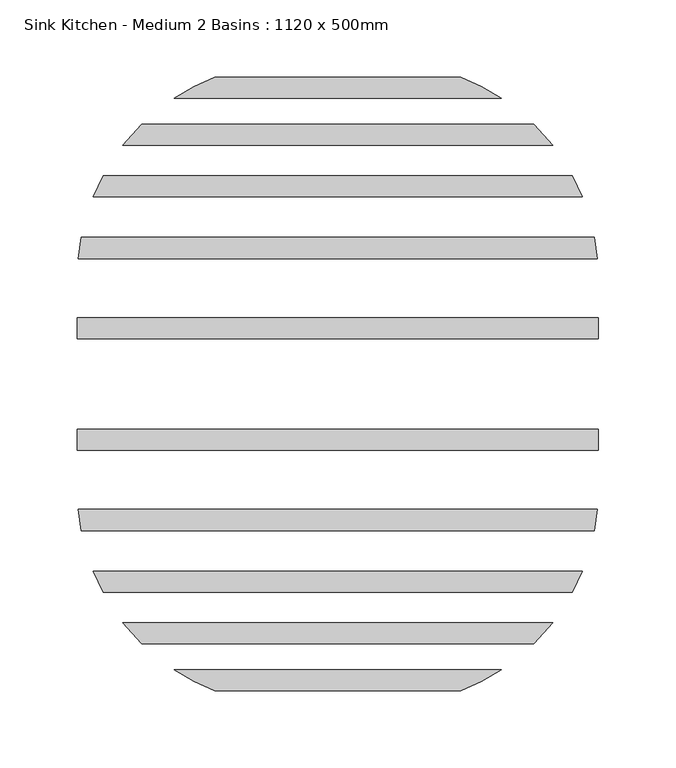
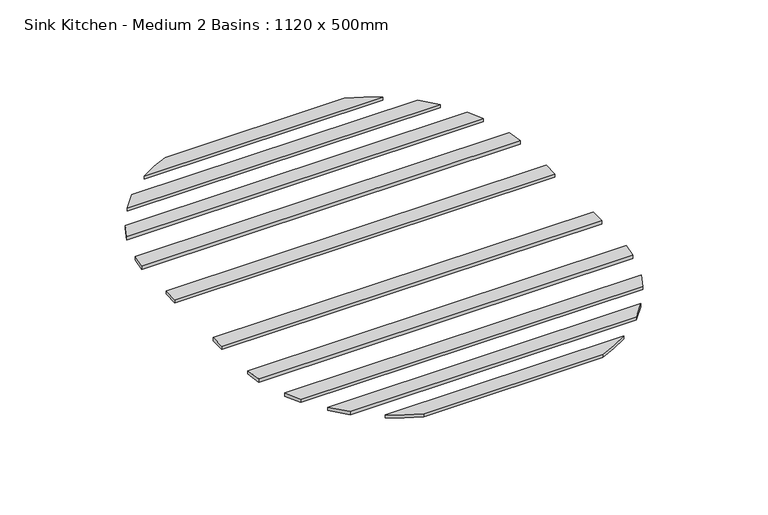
"""IFC4 building model written with IfcOpenShell, lengths in millimetres: flow terminal geometry, Sink Kitchen - Medium 2 Basins : 1120 x 500mm."""

import ifcopenshell
import ifcopenshell.guid

model = None  # the IFC model being written
_history = None  # IfcOwnerHistory: only IFC2X3 demands one
_inside = {}  # id of a spatial element -> (the spatial element, [elements in it])
_under = {}  # id of a project, library or spatial element -> (it, [spatial elements below it])
_declared = {}  # id of a project -> (the project, [libraries it declares])
_typed = {}  # id of a type object -> (the type object, [elements of that type])
_made_of = {}  # id of a material, layer set ... -> (it, [elements and type objects made of it])


def new_model(schema):
    """Start an empty IFC model of exactly this schema.

    Asked for "IFC4X3", IfcOpenShell would pick the latest addendum, in which some entities
    have other attributes; the version numbers below select the first issue.
    IFC2X3 requires an IfcOwnerHistory on every rooted entity: one is made here for all.
    """
    global model, _history
    if schema == "IFC4X3":
        model = ifcopenshell.file(schema_version=(4, 3, 0, 0))
    else:
        model = ifcopenshell.file(schema=schema)
    _inside.clear()
    _under.clear()
    _declared.clear()
    _typed.clear()
    _made_of.clear()
    _history = None
    if model.schema == "IFC2X3":
        org = make("IfcOrganization", Name="unknown")
        user = make(
            "IfcPersonAndOrganization",
            ThePerson=make("IfcPerson", FamilyName="unknown"),
            TheOrganization=org,
        )
        app = make(
            "IfcApplication",
            ApplicationDeveloper=org,
            Version="unknown",
            ApplicationFullName="unknown",
            ApplicationIdentifier="unknown",
        )
        _history = make(
            "IfcOwnerHistory",
            OwningUser=user,
            OwningApplication=app,
            ChangeAction="ADDED",
            CreationDate=0,
        )
    return model


def make(cls, **values):
    """One entity of the class cls with the attributes given. An attribute that is None is left unset."""
    return model.create_entity(
        cls, **{name: value for name, value in values.items() if value is not None}
    )


def rooted(cls, **values):
    """An entity with a GlobalId (a new one), such as an element, a storey or a relation."""
    return make(cls, GlobalId=ifcopenshell.guid.new(), OwnerHistory=_history, **values)


def si_unit(unit_type, name, prefix=None):
    """IfcSIUnit, for example si_unit("LENGTHUNIT", "METRE", prefix="MILLI")."""
    return make("IfcSIUnit", UnitType=unit_type, Prefix=prefix, Name=name)


def assignment(units):
    """IfcUnitAssignment: the units of a project."""
    return None if units is None else make("IfcUnitAssignment", Units=units)


def point(xyz):
    """IfcCartesianPoint."""
    return None if xyz is None else make("IfcCartesianPoint", Coordinates=xyz)


def direction(xyz):
    """IfcDirection."""
    return None if xyz is None else make("IfcDirection", DirectionRatios=xyz)


def frame(location, z_axis=None, x_axis=None):
    """IfcAxis2Placement3D, a coordinate frame: its origin and axes. An axis left out is left unset."""
    return make(
        "IfcAxis2Placement3D",
        Location=point(location),
        Axis=direction(z_axis),
        RefDirection=direction(x_axis),
    )


def frame_2d(location, x_axis=None):
    """IfcAxis2Placement2D, a coordinate frame in the plane: its origin and x axis."""
    return make(
        "IfcAxis2Placement2D", Location=point(location), RefDirection=direction(x_axis)
    )


def origin():
    """The frame at (0, 0, 0) with its axes left unset."""
    return frame((0.0, 0.0, 0.0))


def place(relative_to, where):
    """IfcLocalPlacement: puts the frame where relative to a parent placement (None: the world)."""
    return make(
        "IfcLocalPlacement", PlacementRelTo=relative_to, RelativePlacement=where
    )


def context(
    kind, dimensions, precision=None, world=None, true_north=None, identifier=None
):
    """IfcGeometricRepresentationContext, for example the 3D "Model" context."""
    return make(
        "IfcGeometricRepresentationContext",
        ContextIdentifier=identifier,
        ContextType=kind,
        CoordinateSpaceDimension=dimensions,
        Precision=precision,
        WorldCoordinateSystem=world,
        TrueNorth=true_north,
    )


def project(units=None, contexts=None):
    """IfcProject with its units and contexts."""
    return rooted(
        "IfcProject",
        Name="project",
        RepresentationContexts=contexts,
        UnitsInContext=assignment(units),
    )


def spatial(cls, under=None, at=None, **own):
    """A site, building, storey or space (cls), placed at a placement, below another one or the project."""
    s = rooted(cls, ObjectPlacement=at, **own)
    if under is not None:
        _under.setdefault(under.id(), (under, []))[1].append(s)
    return s


def polyline(points):
    """IfcPolyline through the points."""
    return make("IfcPolyline", Points=[point(p) for p in points])


def circle_curve(where, radius):
    """IfcCircle in the frame where."""
    return make("IfcCircle", Position=where, Radius=radius)


def trimmed(basis, trim1, trim2, sense, master):
    """IfcTrimmedCurve: the piece of a basis curve between two trims."""
    return make(
        "IfcTrimmedCurve",
        BasisCurve=basis,
        Trim1=trim1,
        Trim2=trim2,
        SenseAgreement=sense,
        MasterRepresentation=master,
    )


def segment(curve, same_sense, transition):
    """IfcCompositeCurveSegment."""
    return make(
        "IfcCompositeCurveSegment",
        Transition=transition,
        SameSense=same_sense,
        ParentCurve=curve,
    )


def composite_curve(segments, self_intersect=None):
    """IfcCompositeCurve: segments joined end to end."""
    return make("IfcCompositeCurve", Segments=segments, SelfIntersect=self_intersect)


def outline(outer, holes=None, kind="AREA"):
    """IfcArbitraryClosedProfileDef: a profile drawn as a closed curve; with holes, ...WithVoids."""
    if holes is None:
        return make("IfcArbitraryClosedProfileDef", ProfileType=kind, OuterCurve=outer)
    return make(
        "IfcArbitraryProfileDefWithVoids",
        ProfileType=kind,
        OuterCurve=outer,
        InnerCurves=holes,
    )


def extrude(swept, where, along, depth):
    """IfcExtrudedAreaSolid: the profile swept, set in the frame where, extruded along a direction by depth."""
    return make(
        "IfcExtrudedAreaSolid",
        SweptArea=swept,
        Position=where,
        ExtrudedDirection=direction(along),
        Depth=depth,
    )


def shape(context_of_items, identifier, shape_type, items):
    """IfcShapeRepresentation: the items that make up one representation, for example the "Body"."""
    return make(
        "IfcShapeRepresentation",
        ContextOfItems=context_of_items,
        RepresentationIdentifier=identifier,
        RepresentationType=shape_type,
        Items=items,
    )


def source(mapping_origin, context_of_items, identifier, shape_type, items):
    """IfcRepresentationMap: a shape defined once, which mapped items show again and again."""
    return make(
        "IfcRepresentationMap",
        MappingOrigin=mapping_origin,
        MappedRepresentation=shape(context_of_items, identifier, shape_type, items),
    )


def transform(
    local_origin,
    x_axis=None,
    y_axis=None,
    z_axis=None,
    scale=None,
    scale2=None,
    scale3=None,
    uniform=True,
):
    """IfcCartesianTransformationOperator3D, or its non-uniform kind. x_axis, y_axis, z_axis: its Axis1, 2, 3."""
    if uniform:
        return make(
            "IfcCartesianTransformationOperator3D",
            Axis1=direction(x_axis),
            Axis2=direction(y_axis),
            LocalOrigin=point(local_origin),
            Scale=scale,
            Axis3=direction(z_axis),
        )
    return make(
        "IfcCartesianTransformationOperator3DnonUniform",
        Axis1=direction(x_axis),
        Axis2=direction(y_axis),
        LocalOrigin=point(local_origin),
        Scale=scale,
        Axis3=direction(z_axis),
        Scale2=scale2,
        Scale3=scale3,
    )


def mapped(mapping_source, mapping_target):
    """IfcMappedItem: shows the shape of a source again, moved by a transform."""
    return make(
        "IfcMappedItem", MappingSource=mapping_source, MappingTarget=mapping_target
    )


def made_of(thing, what):
    """Note that an element or type object is made of a material, layer set ...; save() writes the relation."""
    if what is not None:
        _made_of.setdefault(what.id(), (what, []))[1].append(thing)
    return thing


def element(
    cls,
    number,
    at=None,
    inside=None,
    cuts=None,
    type_object=None,
    material=None,
    context=None,
    identifier="Body",
    shape_type=None,
    held_by="IfcProductDefinitionShape",
    body=None,
    shapes=None,
    **own,
):
    """One element of the class cls, such as IfcWall. Its Tag is "e" and its number.

    at: its placement. inside: the storey or other place that contains it. cuts: it is an
    opening in that element (IfcRelVoidsElement). A single representation is given by context,
    identifier, shape_type and body (its items); several are given by shapes. held_by: the class
    of the entity that holds the representations. save() writes the other relations.
    """
    e = rooted(cls, Tag="e%d" % number, ObjectPlacement=at, **own)
    if body is not None:
        shapes = [shape(context, identifier, shape_type, body)]
    if shapes is not None:
        e.Representation = make(held_by, Representations=shapes)
    if inside is not None:
        _inside.setdefault(inside.id(), (inside, []))[1].append(e)
    if cuts is not None:
        rooted(
            "IfcRelVoidsElement", RelatingBuildingElement=cuts, RelatedOpeningElement=e
        )
    if type_object is not None:
        _typed.setdefault(type_object.id(), (type_object, []))[1].append(e)
    return made_of(e, material)


def aggregate(whole, parts):
    """IfcRelAggregates: a whole, such as a stair, and the parts it consists of."""
    return rooted("IfcRelAggregates", RelatingObject=whole, RelatedObjects=parts)


def save(model, path):
    """Write the relations noted so far, then the file.

    IfcRelAggregates (storeys below a building ...), IfcRelContainedInSpatialStructure (elements
    in a storey), IfcRelDefinesByType, IfcRelAssociatesMaterial and IfcRelDeclares: one each for
    every whole, place, type object, material and project.
    """
    for whole, parts in _under.values():
        aggregate(whole, parts)
    for where, things in _inside.values():
        rooted(
            "IfcRelContainedInSpatialStructure",
            RelatedElements=things,
            RelatingStructure=where,
        )
    for kind, things in _typed.values():
        rooted("IfcRelDefinesByType", RelatedObjects=things, RelatingType=kind)
    for what, things in _made_of.values():
        rooted("IfcRelAssociatesMaterial", RelatedObjects=things, RelatingMaterial=what)
    for by, libraries in _declared.values():
        rooted("IfcRelDeclares", RelatingContext=by, RelatedDefinitions=libraries)
    model.write(path)


def sink_kitchen_medium_2_basins_1120_x_500mm_2c090bb4(model_context):
    return source(origin(), model_context, "Body", "SweptSolid", [
        extrude(outline(composite_curve([segment(trimmed(circle_curve(frame_2d((-319.8726156, 63.7633135)), 140.0), [point((-269.0891446, 194.2280179))], [point((-242.7448659, 180.6021351))], False, "CARTESIAN"), True, "CONTINUOUS"), segment(polyline([(-242.7448659, 180.6021351), (-454.8009908, 180.6021351)]), True, "CONTINUOUS"), segment(trimmed(circle_curve(frame_2d((-377.6732411, 63.7633135)), 140.0), [point((-454.8009908, 180.6021351))], [point((-428.4567121, 194.2280179))], False, "CARTESIAN"), True, "CONTINUOUS"), segment(polyline([(-428.4567121, 194.2280179), (-269.0891446, 194.2280179)]), True, "CONTINUOUS")], self_intersect=False)), frame((0.0, 0.0, 850.0), z_axis=(0.0, 0.0, 1.0), x_axis=(1.0, 0.0, 0.0)), (0.0, 0.0, 1.0), 3.0),
        extrude(outline(composite_curve([segment(trimmed(circle_curve(frame_2d((-319.8726156, 63.7633135)), 140.0), [point((-221.6958587, 163.5697482))], [point((-209.5416931, 149.9438654))], False, "CARTESIAN"), True, "CONTINUOUS"), segment(polyline([(-209.5416931, 149.9438654), (-488.0041637, 149.9438654)]), True, "CONTINUOUS"), segment(trimmed(circle_curve(frame_2d((-377.6732411, 63.7633135)), 140.0), [point((-488.0041637, 149.9438654))], [point((-475.849998, 163.5697482))], False, "CARTESIAN"), True, "CONTINUOUS"), segment(polyline([(-475.849998, 163.5697482), (-221.6958587, 163.5697482)]), True, "CONTINUOUS")], self_intersect=False)), frame((0.0, 0.0, 850.0), z_axis=(0.0, 0.0, 1.0), x_axis=(1.0, 0.0, 0.0)), (0.0, 0.0, 1.0), 3.0),
        extrude(outline(composite_curve([segment(trimmed(circle_curve(frame_2d((-319.8726156, 63.7633135)), 140.0), [point((-196.7250148, 130.3566196))], [point((-190.279205, 116.7307368))], False, "CARTESIAN"), True, "CONTINUOUS"), segment(polyline([(-190.279205, 116.7307368), (-507.2666517, 116.7307368)]), True, "CONTINUOUS"), segment(trimmed(circle_curve(frame_2d((-377.6732411, 63.7633135)), 140.0), [point((-507.2666517, 116.7307368))], [point((-500.8208419, 130.3566196))], False, "CARTESIAN"), True, "CONTINUOUS"), segment(polyline([(-500.8208419, 130.3566196), (-196.7250148, 130.3566196)]), True, "CONTINUOUS")], self_intersect=False)), frame((0.0, 0.0, 850.0), z_axis=(0.0, 0.0, 1.0), x_axis=(1.0, 0.0, 0.0)), (0.0, 0.0, 1.0), 3.0),
        extrude(outline(composite_curve([segment(trimmed(circle_curve(frame_2d((-319.8726156, 63.7633135)), 139.9999999), [point((-182.4165082, 90.3305592))], [point((-180.4720377, 76.7046764))], False, "CARTESIAN"), True, "CONTINUOUS"), segment(polyline([(-180.4720377, 76.7046764), (-517.073819, 76.7046764)]), True, "CONTINUOUS"), segment(trimmed(circle_curve(frame_2d((-377.6732412, 63.7633135)), 139.9999999), [point((-517.073819, 76.7046764))], [point((-515.1293485, 90.3305592))], False, "CARTESIAN"), True, "CONTINUOUS"), segment(polyline([(-515.1293485, 90.3305592), (-182.4165082, 90.3305592)]), True, "CONTINUOUS")], self_intersect=False)), frame((0.0, 0.0, 850.0), z_axis=(0.0, 0.0, 1.0), x_axis=(1.0, 0.0, 0.0)), (0.0, 0.0, 1.0), 3.0),
        extrude(outline(polyline([(-179.8726156, 38.3818298), (-179.8726156, 24.755947), (-517.6732411, 24.755947), (-517.6732411, 38.3818298), (-179.8726156, 38.3818298)])), frame((0.0, 0.0, 850.0), z_axis=(0.0, 0.0, 1.0), x_axis=(1.0, 0.0, 0.0)), (0.0, 0.0, 1.0), 3.0),
        extrude(outline(polyline([(-179.8726156, -34.0036434), (-179.8726156, -47.6295262), (-517.6732411, -47.6295262), (-517.6732411, -34.0036434), (-179.8726156, -34.0036434)])), frame((0.0, 0.0, 850.0), z_axis=(0.0, 0.0, 1.0), x_axis=(1.0, 0.0, 0.0)), (0.0, 0.0, 1.0), 3.0),
        extrude(outline(composite_curve([segment(trimmed(circle_curve(frame_2d((-319.8726156, -73.0110099)), 139.9999999), [point((-180.4720377, -85.9523727))], [point((-182.4165082, -99.5782555))], False, "CARTESIAN"), True, "CONTINUOUS"), segment(polyline([(-182.4165082, -99.5782555), (-515.1293485, -99.5782555)]), True, "CONTINUOUS"), segment(trimmed(circle_curve(frame_2d((-377.6732412, -73.0110099)), 139.9999999), [point((-515.1293485, -99.5782555))], [point((-517.073819, -85.9523727))], False, "CARTESIAN"), True, "CONTINUOUS"), segment(polyline([(-517.073819, -85.9523727), (-180.4720377, -85.9523727)]), True, "CONTINUOUS")], self_intersect=False)), frame((0.0, 0.0, 850.0), z_axis=(0.0, 0.0, 1.0), x_axis=(1.0, 0.0, 0.0)), (0.0, 0.0, 1.0), 3.0),
        extrude(outline(composite_curve([segment(trimmed(circle_curve(frame_2d((-319.8726156, -73.0110099)), 140.0), [point((-190.279205, -125.9784332))], [point((-196.7250148, -139.604316))], False, "CARTESIAN"), True, "CONTINUOUS"), segment(polyline([(-196.7250148, -139.604316), (-500.8208419, -139.604316)]), True, "CONTINUOUS"), segment(trimmed(circle_curve(frame_2d((-377.6732411, -73.0110099)), 140.0), [point((-500.8208419, -139.604316))], [point((-507.2666517, -125.9784332))], False, "CARTESIAN"), True, "CONTINUOUS"), segment(polyline([(-507.2666517, -125.9784332), (-190.279205, -125.9784332)]), True, "CONTINUOUS")], self_intersect=False)), frame((0.0, 0.0, 850.0), z_axis=(0.0, 0.0, 1.0), x_axis=(1.0, 0.0, 0.0)), (0.0, 0.0, 1.0), 3.0),
        extrude(outline(composite_curve([segment(trimmed(circle_curve(frame_2d((-319.8726156, -73.0110099)), 140.0), [point((-209.5416931, -159.1915618))], [point((-221.6958587, -172.8174446))], False, "CARTESIAN"), True, "CONTINUOUS"), segment(polyline([(-221.6958587, -172.8174446), (-475.849998, -172.8174446)]), True, "CONTINUOUS"), segment(trimmed(circle_curve(frame_2d((-377.6732411, -73.0110099)), 140.0), [point((-475.849998, -172.8174446))], [point((-488.0041637, -159.1915618))], False, "CARTESIAN"), True, "CONTINUOUS"), segment(polyline([(-488.0041637, -159.1915618), (-209.5416931, -159.1915618)]), True, "CONTINUOUS")], self_intersect=False)), frame((0.0, 0.0, 850.0), z_axis=(0.0, 0.0, 1.0), x_axis=(1.0, 0.0, 0.0)), (0.0, 0.0, 1.0), 3.0),
        extrude(outline(composite_curve([segment(trimmed(circle_curve(frame_2d((-319.8726156, -73.0110099)), 140.0), [point((-242.7448659, -189.8498314))], [point((-269.0891446, -203.4757142))], False, "CARTESIAN"), True, "CONTINUOUS"), segment(polyline([(-269.0891446, -203.4757142), (-428.4567121, -203.4757142)]), True, "CONTINUOUS"), segment(trimmed(circle_curve(frame_2d((-377.6732411, -73.0110099)), 140.0), [point((-428.4567121, -203.4757142))], [point((-454.8009908, -189.8498314))], False, "CARTESIAN"), True, "CONTINUOUS"), segment(polyline([(-454.8009908, -189.8498314), (-242.7448659, -189.8498314)]), True, "CONTINUOUS")], self_intersect=False)), frame((0.0, 0.0, 850.0), z_axis=(0.0, 0.0, 1.0), x_axis=(1.0, 0.0, 0.0)), (0.0, 0.0, 1.0), 3.0),
    ])


if __name__ == "__main__":
    model = new_model("IFC4")
    model_context = context("Model", 3, world=origin())
    ifc_project = project(units=[si_unit("LENGTHUNIT", "METRE", prefix="MILLI")], contexts=[model_context])
    site = spatial("IfcSite", under=ifc_project)
    building = spatial("IfcBuilding", under=site)
    placement = place(None, origin())
    sink_kitchen_medium_2_basins_1120_x_500mm_shape = sink_kitchen_medium_2_basins_1120_x_500mm_2c090bb4(model_context)
    element("IfcFlowTerminal", 1, ObjectType="Sink Kitchen - Medium 2 Basins : 1120 x 500mm", at=placement, inside=building, context=model_context, shape_type="MappedRepresentation", body=[
        mapped(sink_kitchen_medium_2_basins_1120_x_500mm_shape, transform((0.0, 0.0, 0.0), x_axis=(1.0, 0.0, 0.0), y_axis=(0.0, 1.0, 0.0), z_axis=(0.0, 0.0, 1.0))),
    ])
    save(model, "model.ifc")
